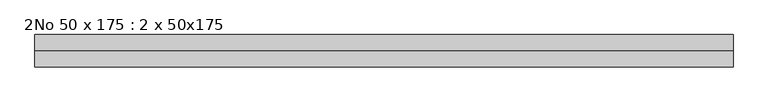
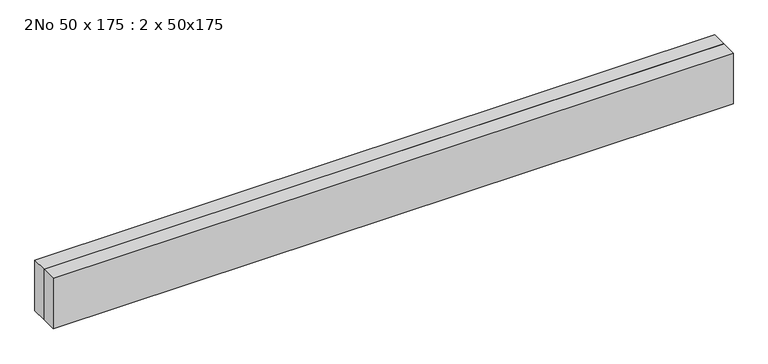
"""IFC4 building model written with IfcOpenShell, lengths in millimetres: beam geometry, 2No 50 x 175 : 2 x 50x175."""

from ifc_helpers import new_model, si_unit, frame, origin, place, context, project, spatial, polyline, outline, extrude, source, transform, mapped, element, save


def beam_2no_50_x_175_2_x_50x175_441c8b70(model_context):
    return source(origin(), model_context, "Body", "SweptSolid", [
        extrude(outline(polyline([(1080.6143189, -25.0), (1080.6143189, -75.0), (-1074.1296371, -75.0), (-1074.1296371, -25.0), (1080.6143189, -25.0)])), frame((0.0, 0.0, -85.0), z_axis=(0.0, 0.0, 1.0), x_axis=(1.0, 0.0, 0.0)), (0.0, 0.0, 1.0), 170.0),
        extrude(outline(polyline([(1080.6143189, 25.0), (1080.6143189, -25.0), (-1074.1296371, -25.0), (-1074.1296371, 25.0), (1080.6143189, 25.0)])), frame((0.0, 0.0, -85.0), z_axis=(0.0, 0.0, 1.0), x_axis=(1.0, 0.0, 0.0)), (0.0, 0.0, 1.0), 170.0),
    ])


if __name__ == "__main__":
    model = new_model("IFC4")
    model_context = context("Model", 3, world=origin())
    ifc_project = project(units=[si_unit("LENGTHUNIT", "METRE", prefix="MILLI")], contexts=[model_context])
    site = spatial("IfcSite", under=ifc_project)
    building = spatial("IfcBuilding", under=site)
    placement = place(None, origin())
    beam_2no_50_x_175_2_x_50x175_shape = beam_2no_50_x_175_2_x_50x175_441c8b70(model_context)
    element("IfcBeam", 1, ObjectType="2No 50 x 175 : 2 x 50x175", at=placement, inside=building, context=model_context, shape_type="MappedRepresentation", body=[
        mapped(beam_2no_50_x_175_2_x_50x175_shape, transform((0.0, 0.0, 0.0), x_axis=(1.0, 0.0, 0.0), y_axis=(0.0, 1.0, 0.0), z_axis=(0.0, 0.0, 1.0))),
    ])
    save(model, "model.ifc")
